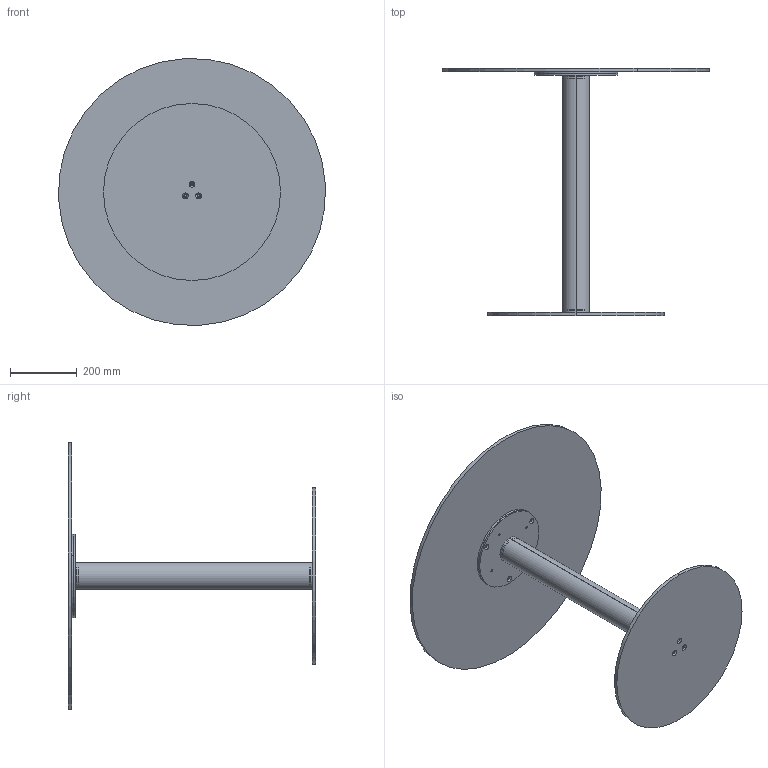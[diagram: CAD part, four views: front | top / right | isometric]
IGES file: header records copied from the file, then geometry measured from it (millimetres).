
Start section: SolidWorks IGES file using analytic representation for surfaces
Global section: file name: Y:\eforma\TECNICO\SOLIDWORKS\E-FORMA\5-TAVOLINI BISTRO\CILINDRO BISTRÒ\02 parts\CB25G.IGS; native system: SolidWorks 2022; preprocessor: SolidWorks 2022; author: eforma.tech; date: 240808.102613; units: millimetre
Bounding box: 799.05 x 741 x 799.05 mm (x, y, z)
Volume: 8155858.8 mm3; surface area: 2063426.5 mm2
Topology: 7 solids, 7 shells, 104 faces, 244 edges, 154 vertices
Faces by surface type: revolution 90, plane 14
